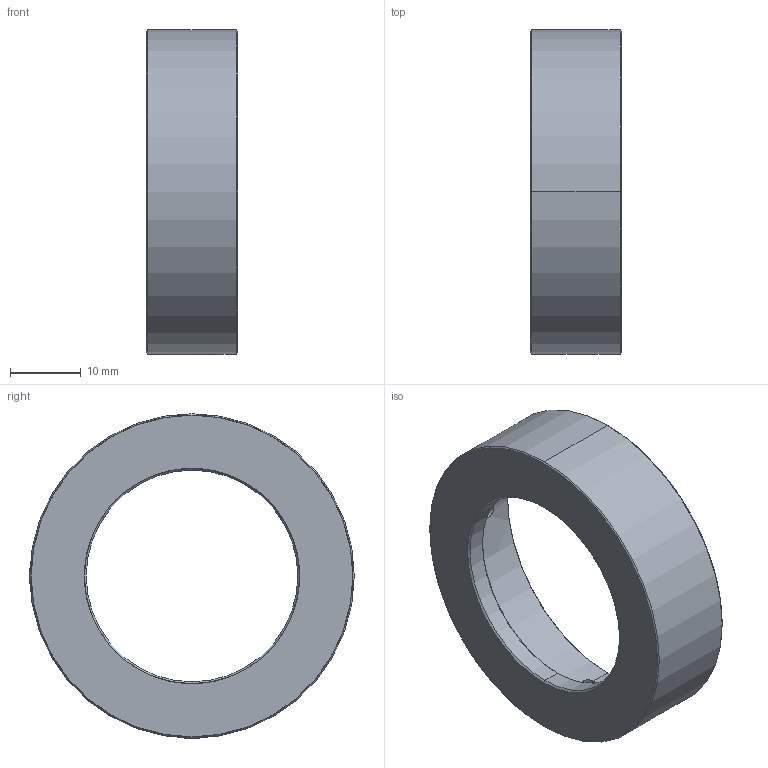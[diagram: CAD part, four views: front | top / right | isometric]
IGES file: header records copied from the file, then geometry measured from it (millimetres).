
Start section: SolidWorks IGES file using analytic representation for surfaces
Global section: file name: \\192.168.200.11\Development\3 製品\1 標準品\07 オプション\04 SV-FAD series\SV-FAD40-305\10.3D外観モデル\SV-FAD40-305.IGS; native system: SolidWorks 2020; preprocessor: SolidWorks 2020; author: sugiyama_vst; date: 200729.101737; units: millimetre
Bounding box: 13 x 46 x 46 mm (x, y, z)
Surface area: 5277.2 mm2 (no closed solid volume)
Topology: 0 solids, 0 shells, 23 faces, 652 edges, 652 vertices
Faces by surface type: revolution 20, bspline 3
